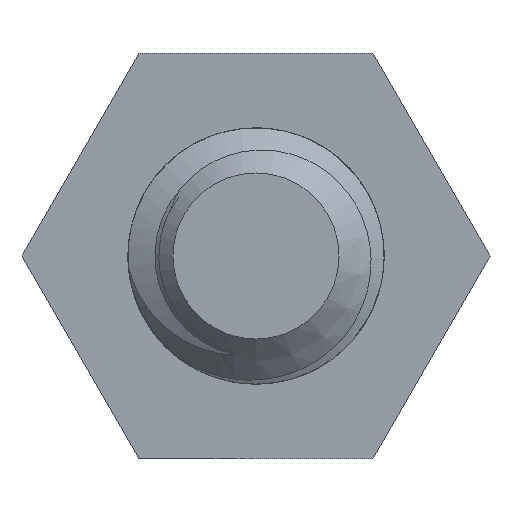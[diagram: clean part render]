
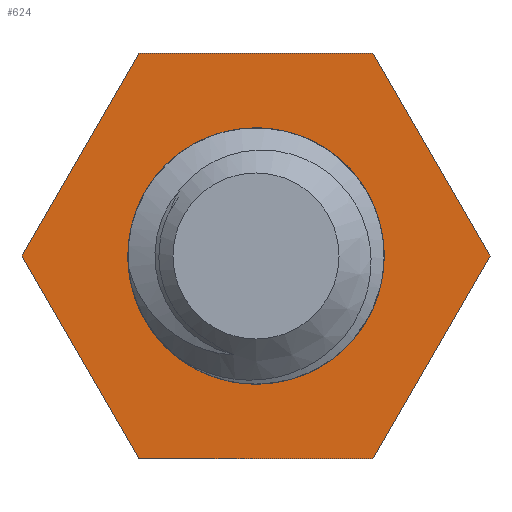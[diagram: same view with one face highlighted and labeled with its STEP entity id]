
A CAD part, front view. The second image highlights one B-rep face of the part: STEP entity #624.
In plain terms, the highlighted planar face has unit normal (0, -1, 0).
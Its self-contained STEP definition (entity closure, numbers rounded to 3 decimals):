
#23 = EDGE_LOOP ( 'NONE', ( #617, #2443 ) ) ;
#60 = CARTESIAN_POINT ( 'NONE',  ( 2.598, 0., 0. ) ) ;
#149 = CARTESIAN_POINT ( 'NONE',  ( 1.414, 0., 0.224 ) ) ;
#166 = DIRECTION ( 'NONE',  ( 0., 1., 0. ) ) ;
#182 = CARTESIAN_POINT ( 'NONE',  ( 0.019, 0., -1.431 ) ) ;
#224 = ORIENTED_EDGE ( 'NONE', *, *, #238, .F. ) ;
#238 = EDGE_CURVE ( 'NONE', #360, #2711, #3629, .T. ) ;
#265 = CARTESIAN_POINT ( 'NONE',  ( 1.246, 0., 0.711 ) ) ;
#280 = CARTESIAN_POINT ( 'NONE',  ( -1.299, 0., -2.25 ) ) ;
#286 = CARTESIAN_POINT ( 'NONE',  ( -1.299, 0., 2.25 ) ) ;
#360 = VERTEX_POINT ( 'NONE', #814 ) ;
#425 = CARTESIAN_POINT ( 'NONE',  ( -0.104, 0., 1.428 ) ) ;
#460 = CARTESIAN_POINT ( 'NONE',  ( -1.122, 0., -0.89 ) ) ;
#469 = CARTESIAN_POINT ( 'NONE',  ( 2.598, 0., 0. ) ) ;
#475 = CARTESIAN_POINT ( 'NONE',  ( -1.423, 0., -0.063 ) ) ;
#483 = LINE ( 'NONE', #2742, #2814 ) ;
#617 = ORIENTED_EDGE ( 'NONE', *, *, #3274, .T. ) ;
#624 = ADVANCED_FACE ( 'NONE', ( #3555, #2450 ), #1276, .F. ) ;
#685 = CARTESIAN_POINT ( 'NONE',  ( -0.789, 0., 1.186 ) ) ;
#703 = CARTESIAN_POINT ( 'NONE',  ( -0.304, 0., -1.399 ) ) ;
#719 = CARTESIAN_POINT ( 'NONE',  ( 0.38, 0., 1.381 ) ) ;
#743 = ORIENTED_EDGE ( 'NONE', *, *, #1442, .F. ) ;
#750 = DIRECTION ( 'NONE',  ( 0., 0., 1. ) ) ;
#814 = CARTESIAN_POINT ( 'NONE',  ( -1.299, 0., -2.25 ) ) ;
#817 = DIRECTION ( 'NONE',  ( 0.5, 0., 0.866 ) ) ;
#838 = EDGE_CURVE ( 'NONE', #2974, #1887, #2055, .T. ) ;
#863 = CARTESIAN_POINT ( 'NONE',  ( 1.299, 0., 2.25 ) ) ;
#998 = CARTESIAN_POINT ( 'NONE',  ( 1.38, 0., 0.381 ) ) ;
#1012 = CARTESIAN_POINT ( 'NONE',  ( -1.276, 0., 0.65 ) ) ;
#1022 = CARTESIAN_POINT ( 'NONE',  ( -2.598, 0., 0. ) ) ;
#1188 = DIRECTION ( 'NONE',  ( 1., 0., 0. ) ) ;
#1256 = CARTESIAN_POINT ( 'NONE',  ( 0., 0., 0. ) ) ;
#1276 = PLANE ( 'NONE',  #2163 ) ;
#1293 = CARTESIAN_POINT ( 'NONE',  ( 1.304, 0., -0.575 ) ) ;
#1326 = CARTESIAN_POINT ( 'NONE',  ( 1.23, 0., -0.719 ) ) ;
#1333 = VERTEX_POINT ( 'NONE', #469 ) ;
#1395 = CARTESIAN_POINT ( 'NONE',  ( 0.869, 0., 1.143 ) ) ;
#1442 = EDGE_CURVE ( 'NONE', #2041, #1333, #483, .T. ) ;
#1471 = DIRECTION ( 'NONE',  ( -0.5, 0., -0.866 ) ) ;
#1540 = CARTESIAN_POINT ( 'NONE',  ( -0.576, 0., 1.303 ) ) ;
#1559 = CARTESIAN_POINT ( 'NONE',  ( 0.222, 0., 1.415 ) ) ;
#1578 = CARTESIAN_POINT ( 'NONE',  ( -1.098, 0., 0.919 ) ) ;
#1608 = CARTESIAN_POINT ( 'NONE',  ( -1.401, 0., 0.261 ) ) ;
#1659 = CARTESIAN_POINT ( 'NONE',  ( 1.299, 0., -2.25 ) ) ;
#1779 = ORIENTED_EDGE ( 'NONE', *, *, #3217, .F. ) ;
#1799 = VERTEX_POINT ( 'NONE', #3502 ) ;
#1827 = CARTESIAN_POINT ( 'NONE',  ( -0.721, 0., 1.229 ) ) ;
#1836 = ORIENTED_EDGE ( 'NONE', *, *, #3573, .F. ) ;
#1845 = CARTESIAN_POINT ( 'NONE',  ( -1.215, 0., -0.758 ) ) ;
#1862 = CARTESIAN_POINT ( 'NONE',  ( 0.532, -0.001, 1.318 ) ) ;
#1872 = VERTEX_POINT ( 'NONE', #286 ) ;
#1887 = VERTEX_POINT ( 'NONE', #1944 ) ;
#1895 = CARTESIAN_POINT ( 'NONE',  ( 1.187, 0., -0.788 ) ) ;
#1944 = CARTESIAN_POINT ( 'NONE',  ( 0.532, -0.001, 1.318 ) ) ;
#1984 = VECTOR ( 'NONE', #2238, 1000. ) ;
#2019 = LINE ( 'NONE', #1659, #2940 ) ;
#2041 = VERTEX_POINT ( 'NONE', #863 ) ;
#2055 = B_SPLINE_CURVE_WITH_KNOTS ( 'NONE', 3,
 ( #3294, #998, #149, #2701, #3569, #3243, #1293, #1326, #1895, #2420, #2401, #2434, #3031, #2469, #182, #703, #2126, #3537, #2143, #460, #1845, #2174, #3309, #475, #3001, #3278, #1608, #2107, #1012, #1578, #2982, #685, #1827, #1540, #2718, #2157, #425, #1559, #719, #1862 ),
 .UNSPECIFIED., .F., .F.,
 ( 4, 2, 2, 2, 2, 2, 2, 2, 2, 2, 2, 2, 2, 2, 2, 2, 2, 2, 2, 4 ),
 ( 0.189, 0.243, 0.298, 0.325, 0.352, 0.407, 0.461, 0.516, 0.57, 0.625, 0.679, 0.734, 0.761, 0.788, 0.843, 0.897, 0.925, 0.952, 1.007, 1.061 ),
 .UNSPECIFIED. ) ;
#2098 = LINE ( 'NONE', #2392, #2818 ) ;
#2107 = CARTESIAN_POINT ( 'NONE',  ( -1.343, 0., 0.497 ) ) ;
#2126 = CARTESIAN_POINT ( 'NONE',  ( -0.462, 0., -1.355 ) ) ;
#2143 = CARTESIAN_POINT ( 'NONE',  ( -0.889, 0., -1.123 ) ) ;
#2157 = CARTESIAN_POINT ( 'NONE',  ( -0.267, 0., 1.407 ) ) ;
#2163 = AXIS2_PLACEMENT_3D ( 'NONE', #1256, #166, #750 ) ;
#2174 = CARTESIAN_POINT ( 'NONE',  ( -1.355, 0., -0.463 ) ) ;
#2238 = DIRECTION ( 'NONE',  ( -0.5, 0., 0.866 ) ) ;
#2241 = LINE ( 'NONE', #3412, #3409 ) ;
#2282 = VECTOR ( 'NONE', #1471, 1000. ) ;
#2300 = CARTESIAN_POINT ( 'NONE',  ( 1.319, 0., 0.533 ) ) ;
#2360 = ORIENTED_EDGE ( 'NONE', *, *, #3099, .F. ) ;
#2392 = CARTESIAN_POINT ( 'NONE',  ( -1.299, 0., 2.25 ) ) ;
#2401 = CARTESIAN_POINT ( 'NONE',  ( 0.921, 0., -1.097 ) ) ;
#2420 = CARTESIAN_POINT ( 'NONE',  ( 1.042, 0., -0.982 ) ) ;
#2434 = CARTESIAN_POINT ( 'NONE',  ( 0.652, 0., -1.275 ) ) ;
#2443 = ORIENTED_EDGE ( 'NONE', *, *, #838, .T. ) ;
#2450 = FACE_OUTER_BOUND ( 'NONE', #3286, .T. ) ;
#2469 = CARTESIAN_POINT ( 'NONE',  ( 0.185, 0., -1.42 ) ) ;
#2538 = CARTESIAN_POINT ( 'NONE',  ( 1.319, 0., 0.533 ) ) ;
#2610 = B_SPLINE_CURVE_WITH_KNOTS ( 'NONE', 3,
 ( #3136, #3373, #1395, #3097, #265, #2538 ),
 .UNSPECIFIED., .F., .F.,
 ( 4, 2, 4 ),
 ( 0.061, 0.125, 0.189 ),
 .UNSPECIFIED. ) ;
#2701 = CARTESIAN_POINT ( 'NONE',  ( 1.428, 0., -0.103 ) ) ;
#2711 = VERTEX_POINT ( 'NONE', #1022 ) ;
#2718 = CARTESIAN_POINT ( 'NONE',  ( -0.499, 0., 1.334 ) ) ;
#2742 = CARTESIAN_POINT ( 'NONE',  ( 1.299, 0., 2.25 ) ) ;
#2757 = DIRECTION ( 'NONE',  ( 0.5, 0., -0.866 ) ) ;
#2814 = VECTOR ( 'NONE', #2757, 1000. ) ;
#2818 = VECTOR ( 'NONE', #1188, 1000. ) ;
#2914 = LINE ( 'NONE', #60, #2282 ) ;
#2940 = VECTOR ( 'NONE', #3154, 1000. ) ;
#2974 = VERTEX_POINT ( 'NONE', #2300 ) ;
#2982 = CARTESIAN_POINT ( 'NONE',  ( -0.983, 0., 1.041 ) ) ;
#3001 = CARTESIAN_POINT ( 'NONE',  ( -1.425, 0., 0.02 ) ) ;
#3031 = CARTESIAN_POINT ( 'NONE',  ( 0.498, 0., -1.342 ) ) ;
#3097 = CARTESIAN_POINT ( 'NONE',  ( 1.142, 0., 0.87 ) ) ;
#3099 = EDGE_CURVE ( 'NONE', #1799, #360, #2019, .T. ) ;
#3136 = CARTESIAN_POINT ( 'NONE',  ( 0.532, -0.001, 1.318 ) ) ;
#3154 = DIRECTION ( 'NONE',  ( -1., 0., 0. ) ) ;
#3217 = EDGE_CURVE ( 'NONE', #2711, #1872, #2241, .T. ) ;
#3243 = CARTESIAN_POINT ( 'NONE',  ( 1.335, 0., -0.498 ) ) ;
#3274 = EDGE_CURVE ( 'NONE', #1887, #2974, #2610, .T. ) ;
#3278 = CARTESIAN_POINT ( 'NONE',  ( -1.413, 0., 0.182 ) ) ;
#3286 = EDGE_LOOP ( 'NONE', ( #3547, #1779, #224, #2360, #1836, #743 ) ) ;
#3294 = CARTESIAN_POINT ( 'NONE',  ( 1.319, 0., 0.533 ) ) ;
#3309 = CARTESIAN_POINT ( 'NONE',  ( -1.399, 0., -0.306 ) ) ;
#3373 = CARTESIAN_POINT ( 'NONE',  ( 0.711, 0., 1.247 ) ) ;
#3409 = VECTOR ( 'NONE', #817, 1000. ) ;
#3412 = CARTESIAN_POINT ( 'NONE',  ( -2.598, 0., 0. ) ) ;
#3502 = CARTESIAN_POINT ( 'NONE',  ( 1.299, 0., -2.25 ) ) ;
#3537 = CARTESIAN_POINT ( 'NONE',  ( -0.757, 0., -1.216 ) ) ;
#3547 = ORIENTED_EDGE ( 'NONE', *, *, #3651, .F. ) ;
#3555 = FACE_BOUND ( 'NONE', #23, .T. ) ;
#3569 = CARTESIAN_POINT ( 'NONE',  ( 1.407, 0., -0.265 ) ) ;
#3573 = EDGE_CURVE ( 'NONE', #1333, #1799, #2914, .T. ) ;
#3629 = LINE ( 'NONE', #280, #1984 ) ;
#3651 = EDGE_CURVE ( 'NONE', #1872, #2041, #2098, .T. ) ;
